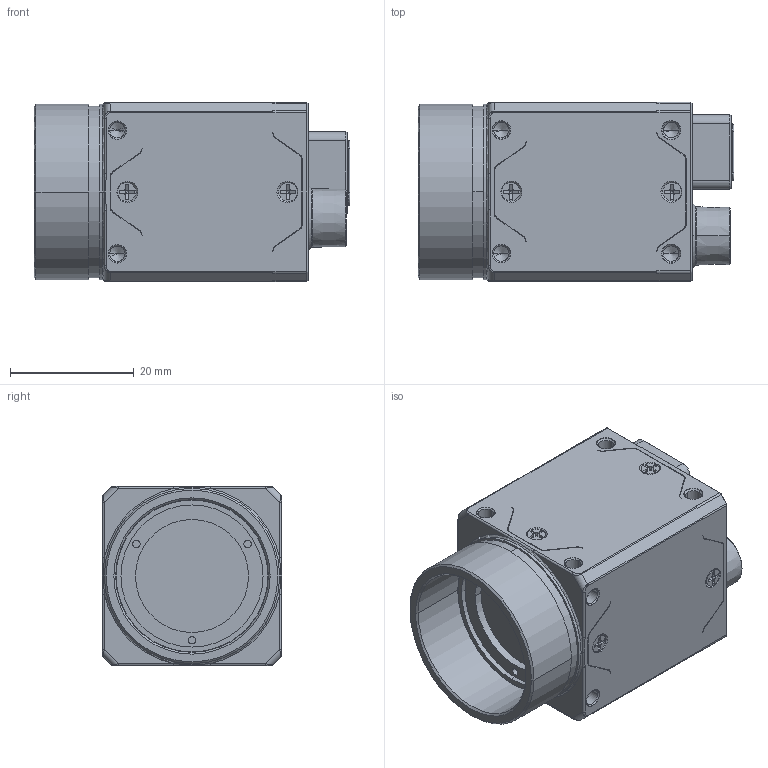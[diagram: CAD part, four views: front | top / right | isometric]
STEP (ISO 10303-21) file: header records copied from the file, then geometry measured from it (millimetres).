
FILE_DESCRIPTION((''),'2;1');
FILE_NAME('MV-CT200-MINI-C_ASM','2026-06-05T11:29:04',('wangyijun6'),(''),'CREO PARAMETRIC BY PTC INC, 2020044','CREO PARAMETRIC BY PTC INC, 2020044','');
FILE_SCHEMA(('CONFIG_CONTROL_DESIGN'));
Products named in the file (10): MV-CT050-MINI-C_ASM_1_1; MV-CT050-MINI-C_ASM_1_2; MV-CT050-MINI-C_ASM_1_3; MV-CT050-MINI-C_ASM_1_4; MV-CT050-MINI-C_ASM_1_5; MV-CT050-MINI-C_ASM_1_6; MV-CT050-MINI-C_ASM_1_7; MV-CT050-MINI-C_ASM_1_8; MV-CT050-MINI-C_ASM_1_ASM; MV-CT200-MINI-C_ASM
Assembly tree (9 placements, depth 3):
  MV-CT200-MINI-C_ASM
    MV-CT050-MINI-C_ASM_1_ASM
      MV-CT050-MINI-C_ASM_1_1
      MV-CT050-MINI-C_ASM_1_2
      MV-CT050-MINI-C_ASM_1_3
      MV-CT050-MINI-C_ASM_1_4
      MV-CT050-MINI-C_ASM_1_5
      MV-CT050-MINI-C_ASM_1_6
      MV-CT050-MINI-C_ASM_1_7
      MV-CT050-MINI-C_ASM_1_8
Bounding box: 51.15 x 29 x 29 mm (x, y, z)
Volume: 24549.9 mm3; surface area: 21152.2 mm2
Topology: 8 solids, 52 shells, 2558 faces, 7043 edges, 4566 vertices
Faces by surface type: plane 1400, cylinder 733, cone 280, torus 82, bspline 45, sphere 16, extrusion 2
Entity records: 88899 total; most frequent: CARTESIAN_POINT 23268, ORIENTED_EDGE 13785, DIRECTION 13587, EDGE_CURVE 6971, AXIS2_PLACEMENT_3D 4614, VERTEX_POINT 4566, VECTOR 4359, LINE 4357
